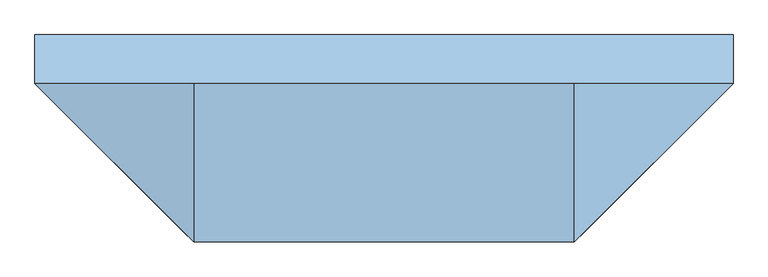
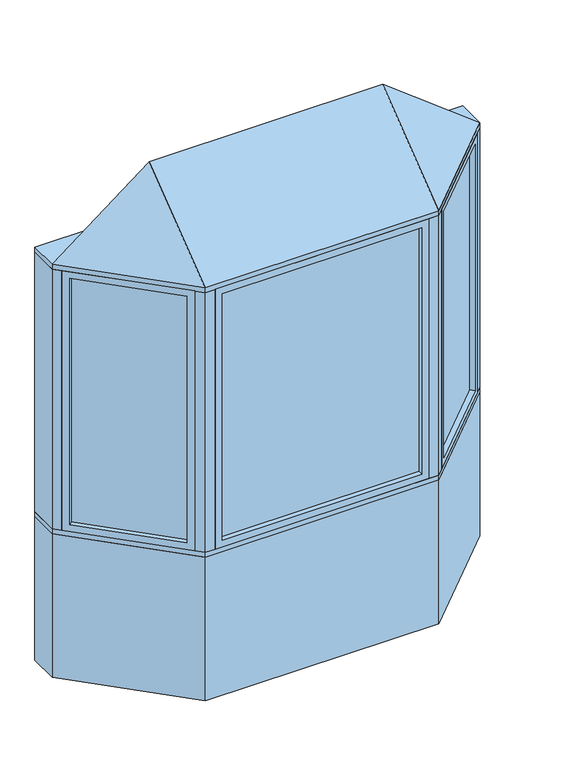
"""IFC4 building model written with IfcOpenShell, lengths in millimetres: window geometry, Pollard_Windows_Tudor Casement Bows and Bays : AML-BAY 45 AFR0514-12-600."""

from ifc_helpers import new_model, si_unit, frame, origin, origin_with_axes, place, context, project, spatial, polyline, outline, extrude, faceted_brep, source, transform, mapped, element, save


def window_51384c38(model_context):
    return source(origin(), model_context, "Body", "SolidModel", [
        extrude(outline(polyline([(1024.0964271, -104.763169), (628.474814, -500.3847822), (624.8827115, -496.7926797), (1020.5043247, -101.1710666), (1024.0964271, -104.763169)])), frame((0.0, 0.0, 823.1628), z_axis=(0.0, 0.0, 1.0), x_axis=(1.0, 0.0, 0.0)), (0.0, 0.0, 1.0), 1353.6704),
        faceted_brep([(1015.116171, -113.7434252, 835.8628), (1033.0766833, -131.7039374, 835.8628), (1033.0766833, -131.7039374, 2164.1332), (1015.116171, -113.7434252, 2164.1332), (1020.5043247, -101.1710666, 823.1628), (1024.0964271, -104.763169, 823.1628), (1024.0964271, -104.763169, 2176.8332), (1020.5043247, -101.1710666, 2176.8332), (993.5635563, -92.1908105, 835.8628), (1011.5240686, -110.1513227, 835.8628), (1011.5240686, -110.1513227, 2164.1332), (993.5635563, -92.1908105, 2164.1332), (1058.4369265, -106.3436941, 799.998), (1018.9237996, -66.8305672, 799.998), (1018.9237996, -66.8305672, 2199.998), (1058.4369265, -106.3436941, 2199.998), (655.4155823, -509.3650383, 2164.1332), (637.4550701, -491.4045261, 2164.1332), (628.474814, -500.3847822, 2176.8332), (624.8827115, -496.7926797, 2176.8332), (633.8629677, -487.8124236, 2164.1332), (615.9024554, -469.8519114, 2164.1332), (590.5422121, -495.2121547, 2199.998), (630.0553391, -534.7252816, 2199.998), (655.4155823, -509.3650383, 835.8628), (637.4550701, -491.4045261, 835.8628), (628.474814, -500.3847822, 823.1628), (624.8827115, -496.7926797, 823.1628), (633.8629677, -487.8124236, 835.8628), (615.9024554, -469.8519114, 835.8628), (590.5422121, -495.2121547, 799.998), (630.0553391, -534.7252816, 799.998)], [[[0, 1, 2, 3]], [[4, 5, 6, 7]], [[8, 9, 10, 11]], [[12, 13, 14, 15]], [[3, 2, 16, 17]], [[7, 6, 18, 19]], [[11, 10, 20, 21]], [[15, 14, 22, 23]], [[17, 16, 24, 25]], [[19, 18, 26, 27]], [[21, 20, 28, 29]], [[23, 22, 30, 31]], [[25, 24, 1, 0]], [[5, 26, 18, 6], [3, 17, 25, 0]], [[27, 26, 5, 4]], [[7, 19, 27, 4], [9, 28, 20, 10]], [[29, 28, 9, 8]], [[13, 30, 22, 14], [11, 21, 29, 8]], [[31, 30, 13, 12]], [[15, 23, 31, 12], [1, 24, 16, 2]]]),
        extrude(outline(polyline([(-628.474814, -500.3847822), (-1024.0964271, -104.763169), (-1020.5043247, -101.1710666), (-624.8827115, -496.7926797), (-628.474814, -500.3847822)])), frame((0.0, 0.0, 823.1628), z_axis=(0.0, 0.0, 1.0), x_axis=(1.0, 0.0, 0.0)), (0.0, 0.0, 1.0), 1353.6704),
        faceted_brep([(-633.8629677, -487.8124236, 2164.1332), (-615.9024554, -469.8519114, 2164.1332), (-615.9024554, -469.8519114, 835.8628), (-633.8629677, -487.8124236, 835.8628), (-628.474814, -500.3847822, 2176.8332), (-624.8827115, -496.7926797, 2176.8332), (-624.8827115, -496.7926797, 823.1628), (-628.474814, -500.3847822, 823.1628), (-655.4155823, -509.3650383, 2164.1332), (-637.4550701, -491.4045261, 2164.1332), (-637.4550701, -491.4045261, 835.8628), (-655.4155823, -509.3650383, 835.8628), (-590.5422121, -495.2121547, 2199.998), (-630.0553391, -534.7252816, 2199.998), (-630.0553391, -534.7252816, 799.998), (-590.5422121, -495.2121547, 799.998), (-993.5635563, -92.1908105, 835.8628), (-1011.5240686, -110.1513227, 835.8628), (-1020.5043247, -101.1710666, 823.1628), (-1024.0964271, -104.763169, 823.1628), (-1015.116171, -113.7434252, 835.8628), (-1033.0766833, -131.7039374, 835.8628), (-1058.4369265, -106.3436941, 799.998), (-1018.9237996, -66.8305672, 799.998), (-993.5635563, -92.1908105, 2164.1332), (-1011.5240686, -110.1513227, 2164.1332), (-1020.5043247, -101.1710666, 2176.8332), (-1024.0964271, -104.763169, 2176.8332), (-1015.116171, -113.7434252, 2164.1332), (-1033.0766833, -131.7039374, 2164.1332), (-1058.4369265, -106.3436941, 2199.998), (-1018.9237996, -66.8305672, 2199.998)], [[[0, 1, 2, 3]], [[4, 5, 6, 7]], [[8, 9, 10, 11]], [[12, 13, 14, 15]], [[3, 2, 16, 17]], [[7, 6, 18, 19]], [[11, 10, 20, 21]], [[15, 14, 22, 23]], [[17, 16, 24, 25]], [[19, 18, 26, 27]], [[21, 20, 28, 29]], [[23, 22, 30, 31]], [[15, 23, 31, 12], [1, 24, 16, 2]], [[25, 24, 1, 0]], [[5, 26, 18, 6], [3, 17, 25, 0]], [[27, 26, 5, 4]], [[7, 19, 27, 4], [9, 28, 20, 10]], [[29, 28, 9, 8]], [[13, 30, 22, 14], [11, 21, 29, 8]], [[31, 30, 13, 12]]]),
        extrude(outline(polyline([(521.5352, -544.6806207), (-521.5352, -544.6806207), (-521.5352, -539.6006207), (521.5352, -539.6006207), (521.5352, -544.6806207)])), frame((0.0, 0.0, 823.1628), z_axis=(0.0, 0.0, 1.0), x_axis=(1.0, 0.0, 0.0)), (0.0, 0.0, 1.0), 1353.6704),
        faceted_brep([(508.8352, -544.6806207, 835.8628), (508.8352, -570.0806207, 835.8628), (508.8352, -570.0806207, 2164.1332), (508.8352, -544.6806207, 2164.1332), (521.5352, -539.6006207, 823.1628), (521.5352, -544.6806207, 823.1628), (521.5352, -544.6806207, 2176.8332), (521.5352, -539.6006207, 2176.8332), (508.8352, -514.2006207, 835.8628), (508.8352, -539.6006207, 835.8628), (508.8352, -539.6006207, 2164.1332), (508.8352, -514.2006207, 2164.1332), (544.7, -570.0806207, 799.998), (544.7, -514.2006207, 799.998), (544.7, -514.2006207, 2199.998), (544.7, -570.0806207, 2199.998), (-508.8352, -570.0806207, 2164.1332), (-508.8352, -544.6806207, 2164.1332), (-521.5352, -544.6806207, 2176.8332), (-521.5352, -539.6006207, 2176.8332), (-508.8352, -539.6006207, 2164.1332), (-508.8352, -514.2006207, 2164.1332), (-544.7, -514.2006207, 2199.998), (-544.7, -570.0806207, 2199.998), (-508.8352, -570.0806207, 835.8628), (-508.8352, -544.6806207, 835.8628), (-521.5352, -544.6806207, 823.1628), (-521.5352, -539.6006207, 823.1628), (-508.8352, -539.6006207, 835.8628), (-508.8352, -514.2006207, 835.8628), (-544.7, -514.2006207, 799.998), (-544.7, -570.0806207, 799.998)], [[[0, 1, 2, 3]], [[4, 5, 6, 7]], [[8, 9, 10, 11]], [[12, 13, 14, 15]], [[3, 2, 16, 17]], [[7, 6, 18, 19]], [[11, 10, 20, 21]], [[15, 14, 22, 23]], [[17, 16, 24, 25]], [[19, 18, 26, 27]], [[21, 20, 28, 29]], [[23, 22, 30, 31]], [[15, 23, 31, 12], [1, 24, 16, 2]], [[25, 24, 1, 0]], [[5, 26, 18, 6], [3, 17, 25, 0]], [[27, 26, 5, 4]], [[7, 19, 27, 4], [9, 28, 20, 10]], [[29, 28, 9, 8]], [[13, 30, 22, 14], [11, 21, 29, 8]], [[31, 30, 13, 12]]]),
        faceted_brep([(1090.0, -74.7806207, 2225.398), (594.7, -570.0806207, 2225.398), (-594.7, -570.0806207, 2225.398), (-1090.0, -74.7806207, 2225.398), (-594.7, -74.7806207, 2606.398), (594.7, -74.7806207, 2606.398)], [[[0, 1, 2, 3]], [[3, 2, 4]], [[2, 1, 5, 4]], [[1, 0, 5]], [[0, 3, 4, 5]]]),
        extrude(outline(polyline([(-1090.0, 77.6193793), (1090.0, 77.6193793), (1090.0, -74.7806207), (594.7, -570.0806207), (-594.7, -570.0806207), (-1090.0, -74.7806207), (-1090.0, 77.6193793)])), frame((0.0, 0.0, 2199.998), z_axis=(0.0, 0.0, 1.0), x_axis=(1.0, 0.0, 0.0)), (0.0, 0.0, 1.0), 25.4),
        extrude(outline(polyline([(-1090.0, -74.7806207), (-1090.0, 77.6193793), (-1026.8738531, 77.6193793), (-1026.8738531, -74.7806207), (-1058.4369265, -106.3436941), (-1090.0, -74.7806207)])), frame((0.0, 0.0, 799.998), z_axis=(0.0, 0.0, 1.0), x_axis=(1.0, 0.0, 0.0)), (0.0, 0.0, 1.0), 1400.0),
        extrude(outline(polyline([(1090.0, 77.6193793), (1090.0, -74.7806207), (1058.4369265, -106.3436941), (1026.8738531, -74.7806207), (1026.8738531, 77.6193793), (1090.0, 77.6193793)])), frame((0.0, 0.0, 799.998), z_axis=(0.0, 0.0, 1.0), x_axis=(1.0, 0.0, 0.0)), (0.0, 0.0, 1.0), 1400.0),
        extrude(outline(polyline([(594.7, -570.0806207), (544.7, -570.0806207), (544.7, -520.0806207), (573.9893219, -520.0806207), (594.7, -499.3699425), (630.0553391, -534.7252816), (594.7, -570.0806207)])), frame((0.0, 0.0, 799.998), z_axis=(0.0, 0.0, 1.0), x_axis=(1.0, 0.0, 0.0)), (0.0, 0.0, 1.0), 1400.0),
        extrude(outline(polyline([(-594.7, -570.0806207), (-630.0553391, -534.7252816), (-594.7, -499.3699425), (-573.9893219, -520.0806207), (-544.7, -520.0806207), (-544.7, -570.0806207), (-594.7, -570.0806207)])), frame((0.0, 0.0, 799.998), z_axis=(0.0, 0.0, 1.0), x_axis=(1.0, 0.0, 0.0)), (0.0, 0.0, 1.0), 1400.0),
        extrude(outline(polyline([(-594.7, -570.0806207), (-1090.0, -74.7806207), (-1090.0, 77.6193793), (-1026.8738531, 77.6193793), (-531.5738531, -417.6806207), (531.5738531, -417.6806207), (1026.8738531, 77.6193793), (1090.0, 77.6193793), (1090.0, -74.7806207), (594.7, -570.0806207), (-594.7, -570.0806207)])), frame((0.0, 0.0, 774.598), z_axis=(0.0, 0.0, 1.0), x_axis=(1.0, 0.0, 0.0)), (0.0, 0.0, 1.0), 25.4),
        extrude(outline(polyline([(-1090.0, -74.7806207), (-1090.0, 77.6193793), (-1026.8738531, 77.6193793), (-531.5738531, -417.6806207), (531.5738531, -417.6806207), (1026.8738531, 77.6193793), (1090.0, 77.6193793), (1090.0, -74.7806207), (594.7, -570.0806207), (-594.7, -570.0806207), (-1090.0, -74.7806207)])), origin_with_axes(), (0.0, 0.0, 1.0), 774.598),
    ])


if __name__ == "__main__":
    model = new_model("IFC4")
    model_context = context("Model", 3, world=origin())
    ifc_project = project(units=[si_unit("LENGTHUNIT", "METRE", prefix="MILLI")], contexts=[model_context])
    site = spatial("IfcSite", under=ifc_project)
    building = spatial("IfcBuilding", under=site)
    placement = place(None, origin())
    window_shape = window_51384c38(model_context)
    element("IfcWindow", 1, ObjectType="Pollard_Windows_Tudor Casement Bows and Bays : AML-BAY 45 AFR0514-12-600", at=placement, inside=building, context=model_context, shape_type="MappedRepresentation", body=[
        mapped(window_shape, transform((0.0, 0.0, 0.0), x_axis=(1.0, 0.0, 0.0), y_axis=(0.0, 1.0, 0.0), z_axis=(0.0, 0.0, 1.0))),
    ])
    save(model, "model.ifc")
